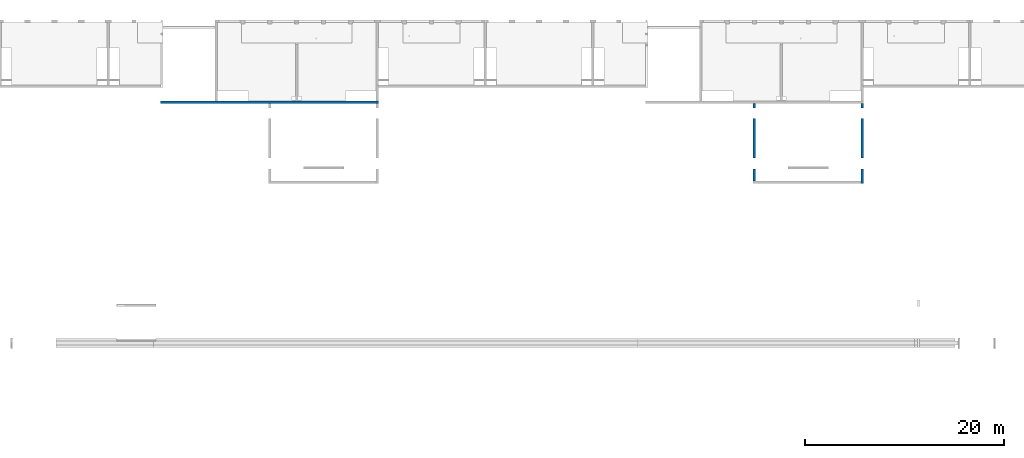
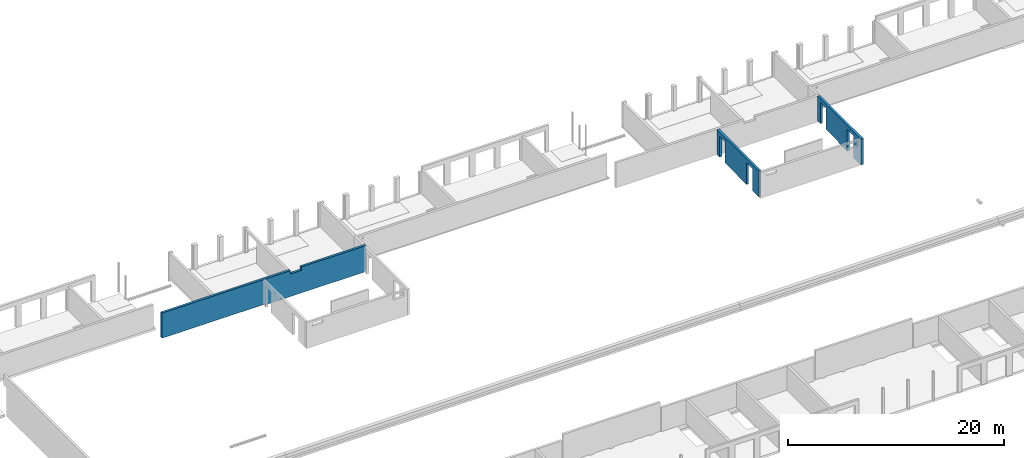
# One storey, part 22 of 22: 3 walls.
"""IFC2X3 building model written with IfcOpenShell, lengths in millimetres."""

from ifc_helpers import new_model, entity, si_unit, converted_unit, derived_unit, direction, frame, origin, place, context, subcontext, project, spatial, faceted_brep, material, layer, layer_set, type_object, element, save


model = new_model("IFC2X3")

# Units and contexts
model_context = context("Model", 3, precision=0.01, world=origin(), true_north=direction((6.12303176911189e-17, 1.0)))
body_context = subcontext(model_context, "Body", "Model", "MODEL_VIEW")
ifc_project = project(units=[si_unit("LENGTHUNIT", "METRE", prefix="MILLI"), si_unit("AREAUNIT", "SQUARE_METRE"), si_unit("VOLUMEUNIT", "CUBIC_METRE"), converted_unit("PLANEANGLEUNIT", "DEGREE", entity("IfcRatioMeasure", 0.0174532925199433), si_unit("PLANEANGLEUNIT", "RADIAN"), dimensions=[0, 0, 0, 0, 0, 0, 0]), si_unit("MASSUNIT", "GRAM", prefix="KILO"), derived_unit("MASSDENSITYUNIT", [(si_unit("MASSUNIT", "GRAM", prefix="KILO"), 1), (si_unit("LENGTHUNIT", "METRE"), -3)]), si_unit("TIMEUNIT", "SECOND"), si_unit("FREQUENCYUNIT", "HERTZ"), si_unit("THERMODYNAMICTEMPERATUREUNIT", "DEGREE_CELSIUS"), derived_unit("THERMALTRANSMITTANCEUNIT", [(si_unit("MASSUNIT", "GRAM", prefix="KILO"), 1), (si_unit("THERMODYNAMICTEMPERATUREUNIT", "KELVIN"), -1), (si_unit("TIMEUNIT", "SECOND"), -3)]), derived_unit("VOLUMETRICFLOWRATEUNIT", [(si_unit("LENGTHUNIT", "METRE"), 3), (si_unit("TIMEUNIT", "SECOND"), -1)]), si_unit("ELECTRICCURRENTUNIT", "AMPERE"), si_unit("ELECTRICVOLTAGEUNIT", "VOLT"), si_unit("POWERUNIT", "WATT"), si_unit("FORCEUNIT", "NEWTON", prefix="KILO"), si_unit("ILLUMINANCEUNIT", "LUX"), si_unit("LUMINOUSFLUXUNIT", "LUMEN"), si_unit("LUMINOUSINTENSITYUNIT", "CANDELA"), derived_unit("USERDEFINED", [(si_unit("MASSUNIT", "GRAM", prefix="KILO"), -1), (si_unit("LENGTHUNIT", "METRE"), -2), (si_unit("TIMEUNIT", "SECOND"), 3), (si_unit("LUMINOUSFLUXUNIT", "LUMEN"), 1)]), derived_unit("LINEARVELOCITYUNIT", [(si_unit("LENGTHUNIT", "METRE"), 1), (si_unit("TIMEUNIT", "SECOND"), -1)]), si_unit("PRESSUREUNIT", "PASCAL"), derived_unit("USERDEFINED", [(si_unit("LENGTHUNIT", "METRE"), -2), (si_unit("MASSUNIT", "GRAM", prefix="KILO"), 1), (si_unit("TIMEUNIT", "SECOND"), -2)])], contexts=[model_context])

# Site, building, storey
site_placement = place(None, origin())
site = spatial("IfcSite", under=ifc_project, at=site_placement, Name="Default", CompositionType="ELEMENT")
building_placement = place(site_placement, origin())
building = spatial("IfcBuilding", under=site, at=building_placement, Name="niet gebruiken", CompositionType="ELEMENT")
storey_placement = place(building_placement, frame((0.0, 0.0, 9630.0)))
storey = spatial("IfcBuildingStorey", under=building, at=storey_placement, Name="03 derde verdieping", CompositionType="ELEMENT", Elevation=9630.00000000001)

# Walls
ifc_material = material(Name="NLRS_f2_beton ihwg")
ifc_layer = layer(ifc_material, 250.0)
ifc_layer_set = layer_set([ifc_layer], Name="Basic Wall:NLRS_22.21_WA_beton ihwg d=250_gen")
wall_type = type_object("IfcWallType", Name="Basic Wall:NLRS_22.21_WA_beton ihwg d=250_gen", PredefinedType="STANDARD", material=ifc_layer_set)
wall_1_placement = place(storey_placement, frame((48725.0, 45031.0, -310.0), z_axis=(0.0, 0.0, 1.0), x_axis=(-1.0, 0.0, 0.0)))
element("IfcWall", 1, at=wall_1_placement, inside=storey, type_object=wall_type, Name="Basic Wall:NLRS_22.21_WA_beton ihwg d=250_gen", ObjectType="Basic Wall:NLRS_22.21_WA_beton ihwg d=250_gen", context=body_context, shape_type="Brep", body=[
    faceted_brep([(10800.0, -125.0, 90.0), (21875.0, -125.0, 90.0), (21875.0, -125.0, 2380.0), (21875.0, -125.0, 2940.0), (16425.0, -125.0, 2940.0), (8125.0, -125.0, 2940.0), (8125.0, -125.0, 2555.0), (6925.0, -125.0, 2555.0), (6925.0, -125.0, 2940.0), (250.0, -125.0, 2940.0), (0.0, -125.0, 2940.0), (0.0, -125.0, 220.0), (0.0, -125.0, 90.0), (250.000150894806, -125.0, 90.0), (250.000150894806, -125.0, 0.0), (3250.00015089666, -125.0, 0.0), (3350.0, -125.0, 0.0), (3350.0, -125.0, 40.0), (8120.0, -125.0, 40.0), (8120.0, -125.0, 0.0), (8330.0, -125.0, 0.0), (8330.0, -125.0, 40.0), (10800.0, -125.0, 40.0), (9610.0, -125.0, 1110.0), (9810.0, -125.0, 1110.0), (9810.0, -125.0, 220.0), (9610.0, -125.0, 220.0), (5860.0, -125.0, 1110.0), (6060.0, -125.0, 1110.0), (6060.0, -125.0, 220.0), (5860.0, -125.0, 220.0), (21875.0, 125.0, 90.0), (11050.0, 125.0, 90.0), (10800.0, 125.0, 90.0), (10800.0, 125.0, 0.0), (3250.00015089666, 125.0, 0.0), (250.000150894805, 125.0, 0.0), (250.000150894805, 125.0, 90.0), (0.0, 125.0, 90.0), (0.0, 125.0, 2940.0), (250.0, 125.0, 2940.0), (6925.0, 125.0, 2940.0), (6925.0, 125.0, 2555.0), (8125.0, 125.0, 2555.0), (8125.0, 125.0, 2940.0), (10800.0, 125.0, 2940.0), (11050.0, 125.0, 2940.0), (21200.0, 125.0, 2940.0), (21875.0, 125.0, 2940.0), (21875.0, 125.0, 2380.0), (8125.0, 105.0, 2940.0), (10800.0, -105.0, 0.0), (8330.0, -105.0, 0.0), (8120.0, -105.0, 0.0), (7800.00015089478, -105.0, 0.0), (3350.0, -105.0, 0.0), (10800.0, -105.0, 40.0), (8330.0, -105.0, 40.0), (3350.0, -105.0, 40.0), (8120.0, -105.0, 40.0), (9610.0, -85.0, 1110.0), (9810.0, -85.0, 1110.0), (9810.0, -85.0, 220.0), (9610.0, -85.0, 220.0), (5860.0, -85.0, 1110.0), (6060.0, -85.0, 1110.0), (6060.0, -85.0, 220.0), (5860.0, -85.0, 220.0), (6925.0, 105.0, 2940.0), (6925.0, -105.0, 2940.0)], [[[0, 1, 2, 3, 4, 5, 6, 7, 8, 9, 10, 11, 12, 13, 14, 15, 16, 17, 18, 19, 20, 21, 22], [23, 24, 25, 26], [27, 28, 29, 30]], [[31, 32, 33, 34, 35, 36, 37, 38, 39, 40, 41, 42, 43, 44, 45, 46, 47, 48, 49]], [[1, 0, 33, 32, 31]], [[3, 2, 1, 31, 49, 48]], [[3, 48, 47, 46, 45, 44, 50, 5, 4]], [[34, 51, 52, 20, 19, 53, 54, 55, 16, 15, 14, 36, 35]], [[34, 33, 0, 22, 56, 51]], [[21, 57, 56, 22]], [[57, 21, 20, 52]], [[56, 57, 52, 51]], [[58, 59, 18, 17]], [[59, 58, 55, 54, 53]], [[58, 17, 16, 55]], [[18, 59, 53, 19]], [[37, 13, 12, 38]], [[13, 37, 36, 14]], [[10, 39, 38, 12, 11]], [[23, 60, 61, 24]], [[25, 62, 63, 26]], [[24, 61, 62, 25]], [[61, 60, 63, 62]], [[60, 23, 26, 63]], [[27, 64, 65, 28]], [[29, 66, 67, 30]], [[28, 65, 66, 29]], [[65, 64, 67, 66]], [[64, 27, 30, 67]], [[6, 43, 42, 7]], [[43, 6, 5, 50, 44]], [[7, 42, 41, 68, 69, 8]], [[39, 10, 9, 8, 69, 68, 41, 40]]]),
])
wall_2_placement = place(storey_placement, frame((97200.0, 36856.0, -310.0), z_axis=(0.0, 0.0, 1.0), x_axis=(0.0, 1.0, 0.0)))
element("IfcWall", 2, at=wall_2_placement, inside=storey, type_object=wall_type, Name="Basic Wall:NLRS_22.21_WA_beton ihwg d=250_gen", ObjectType="Basic Wall:NLRS_22.21_WA_beton ihwg d=250_gen", context=body_context, shape_type="Brep", body=[
    faceted_brep([(8050.0, -125.0, 2940.0), (7825.0, -125.0, 2940.0), (4455.0, -125.0, 2940.0), (4205.0, -125.0, 2940.0), (0.0, -125.0, 2940.0), (0.0, -125.0, 0.0), (1450.0, -125.0, 0.0), (1450.0, -125.0, 2495.0), (2580.0, -125.0, 2495.0), (2580.0, -125.0, 0.0), (4205.0, -125.0, 0.0), (4205.0, -125.0, 90.0), (4455.0, -125.0, 90.0), (4630.0, -125.0, 90.0), (5530.0, -125.0, 90.0), (6530.0, -125.0, 90.0), (6530.0, -125.0, 2470.0), (7555.0, -125.0, 2470.0), (7555.0, -125.0, 90.0), (8050.0, -125.0, 90.0), (0.0, 125.0, 2940.0), (250.0, 125.0, 2940.0), (8050.0, 125.0, 2940.0), (8050.0, 125.0, 90.0), (7555.0, 125.0, 90.0), (7555.0, 125.0, 2470.0), (6530.0, 125.0, 2470.0), (6530.0, 125.0, 90.0), (4205.0, 125.0, 90.0), (4205.0, 125.0, 0.0), (2580.0, 125.0, 0.0), (2580.0, 125.0, 2495.0), (1450.0, 125.0, 2495.0), (1450.0, 125.0, 0.0), (250.0, 125.0, 0.0), (0.0, 125.0, 0.0), (4205.0, 125.000150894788, 90.0)], [[[0, 1, 2, 3, 4, 5, 6, 7, 8, 9, 10, 11, 12, 13, 14, 15, 16, 17, 18, 19]], [[20, 21, 22, 23, 24, 25, 26, 27, 28, 29, 30, 31, 32, 33, 34, 35]], [[6, 5, 35, 34, 33]], [[4, 3, 2, 1, 0, 22, 21, 20]], [[26, 16, 15, 27]], [[16, 26, 25, 17]], [[17, 25, 24, 18]], [[8, 31, 30, 9]], [[31, 8, 7, 32]], [[32, 7, 6, 33]], [[5, 4, 20, 35]], [[11, 28, 27, 15, 14, 13, 12]], [[36, 11, 10, 29]], [[22, 0, 19, 23]], [[19, 18, 24, 23]], [[9, 30, 29, 10]]]),
])
wall_3_placement = place(storey_placement, frame((86400.0, 37106.0, -310.0), z_axis=(0.0, 0.0, 1.0), x_axis=(0.0, 1.0, 0.0)))
element("IfcWall", 3, at=wall_3_placement, inside=storey, type_object=wall_type, Name="Basic Wall:NLRS_22.21_WA_beton ihwg d=250_gen", ObjectType="Basic Wall:NLRS_22.21_WA_beton ihwg d=250_gen", context=body_context, shape_type="Brep", body=[
    faceted_brep([(6280.0, -125.0, 2470.0), (7305.0, -125.0, 2470.0), (7305.0, -125.0, 90.0), (7800.0, -125.0, 90.0), (7800.0, -125.0, 2940.0), (720.0, -125.0, 2940.0), (0.0, -125.0, 2940.0), (0.0, -125.0, 0.0), (720.0, -125.0, 0.0), (1200.0, -125.0, 0.0), (1200.0, -125.0, 2495.0), (2330.0, -125.0, 2495.0), (2330.0, -125.0, 0.0), (3955.0, -125.0, 0.0), (3955.0, -125.0, 90.0), (6280.0, -125.0, 90.0), (7305.0, 125.0, 2470.0), (6280.0, 125.0, 2470.0), (6280.0, 125.0, 90.0), (5280.0, 125.0, 90.0), (4380.0, 125.0, 90.0), (3955.0, 125.0, 90.0), (3955.0, 125.0, 0.0), (2330.0, 125.0, 0.0), (2330.0, 125.0, 2495.0), (1200.0, 125.0, 2495.0), (1200.0, 125.0, 0.0), (0.0, 125.0, 0.0), (0.0, 125.0, 2940.0), (300.0, 125.0, 2940.0), (7800.0, 125.0, 2940.0), (7800.0, 125.0, 90.0), (7305.0, 125.0, 90.0)], [[[0, 1, 2, 3, 4, 5, 6, 7, 8, 9, 10, 11, 12, 13, 14, 15]], [[16, 17, 18, 19, 20, 21, 22, 23, 24, 25, 26, 27, 28, 29, 30, 31, 32]], [[9, 8, 7, 27, 26]], [[28, 6, 5, 4, 30, 29]], [[17, 0, 15, 18]], [[0, 17, 16, 1]], [[1, 16, 32, 2]], [[11, 24, 23, 12]], [[24, 11, 10, 25]], [[25, 10, 9, 26]], [[7, 6, 28, 27]], [[4, 3, 31, 30]], [[14, 21, 20, 19, 18, 15]], [[21, 14, 13, 22]], [[3, 2, 32, 31]], [[12, 23, 22, 13]]]),
])

save(model, "model.ifc")
